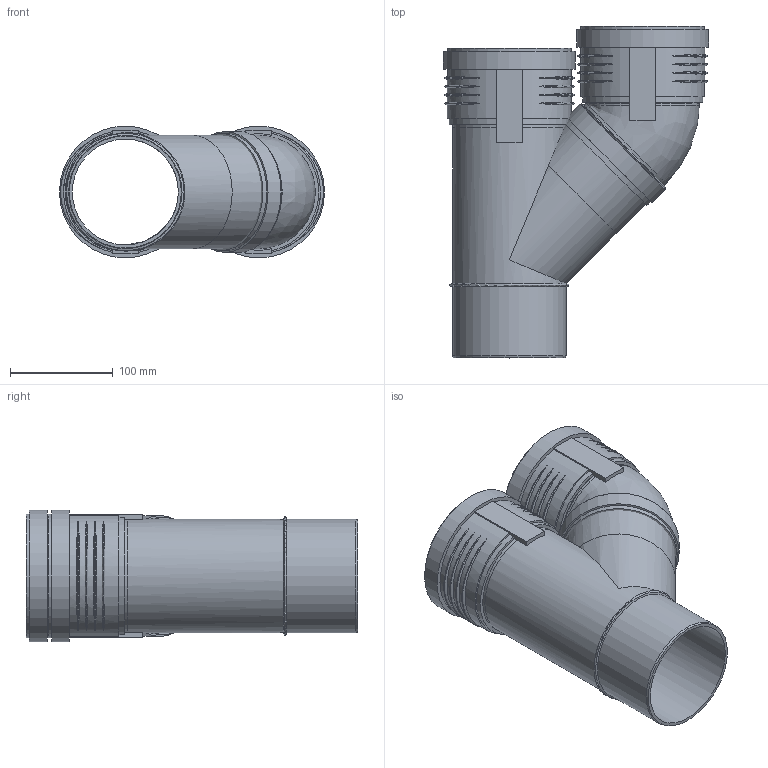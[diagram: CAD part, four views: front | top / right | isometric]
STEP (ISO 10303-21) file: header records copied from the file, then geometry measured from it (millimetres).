
FILE_DESCRIPTION(/* description */ (''),/* implementation_level */ '2;1');
FILE_NAME(/* name */ 'Z:\Geberit\Export\NewStep\390557.stp',/* time_stamp */ '2014-04-02T08:14:45+02:00',/* author */ ('ML'),/* organization */ (''),/* preprocessor_version */ 'ST-DEVELOPER v15.2',/* originating_system */ 'Autodesk Inventor 2014',/* authorisation */ '');
FILE_SCHEMA (('AUTOMOTIVE_DESIGN { 1 0 10303 214 3 1 1 }'));
Length unit declared in the file: millimetre
Products named in the file (6): 861349; 861515; 861404; 861333; 390522; 390557
Bounding box: 257.74 x 322.6 x 128.1 mm (x, y, z)
Volume: 749616.2 mm3; surface area: 429924.8 mm2
Topology: 5 solids, 5 shells, 145 faces, 351 edges, 239 vertices
Faces by surface type: torus 54, plane 42, cylinder 41, cone 7, bspline 1
Full cylindrical faces by diameter (mm): 103 x5, 103.2 x2, 108.9 x1, 110.2 x8, 113.3 x4, 113.94 x1, 117.54 x1, 120.3 x2, 121.1 x2, 128.1 x2
Entity records: 3384 total; most frequent: CARTESIAN_POINT 1285, DIRECTION 404, ORIENTED_EDGE 342, AXIS2_PLACEMENT_3D 184, EDGE_CURVE 171, EDGE_LOOP 145, VERTEX_POINT 134, STYLED_ITEM 93
